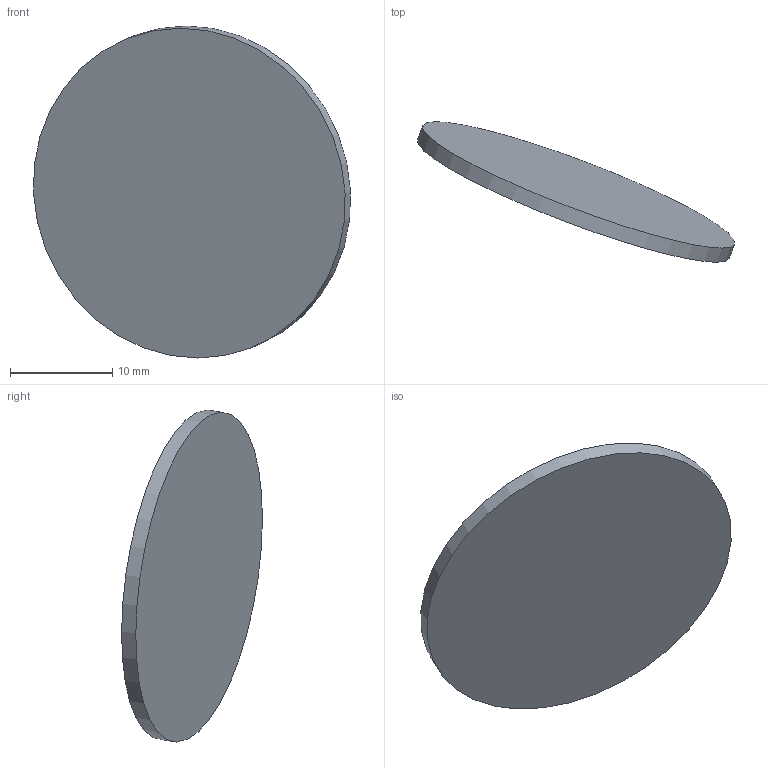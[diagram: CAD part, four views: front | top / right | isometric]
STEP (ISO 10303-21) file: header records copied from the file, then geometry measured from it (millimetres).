
FILE_DESCRIPTION(('Open CASCADE Model'),'2;1');
FILE_NAME('Open CASCADE Shape Model','2026-10-18T22:58:17',('Author'),( 'Open CASCADE'),'Open CASCADE STEP processor 7.9','Open CASCADE 7.9' ,'Unknown');
FILE_SCHEMA(('AUTOMOTIVE_DESIGN { 1 0 10303 214 1 1 1 1 }'));
Length unit declared in the file: millimetre
Products named in the file (1): Open CASCADE STEP translator 7.9 13
Bounding box: 31.01 x 13.77 x 32.47 mm (x, y, z)
Volume: 1252 mm3; surface area: 1823 mm2
Topology: 1 solids, 1 shells, 3 faces, 3 edges, 2 vertices
Faces by surface type: plane 2, cylinder 1
Full cylindrical faces by diameter (mm): 32.6 x1
Entity records: 108 total; most frequent: DIRECTION 19, CARTESIAN_POINT 15, AXIS2_PLACEMENT_3D 6, ORIENTED_EDGE 6, PCURVE 6, DEFINITIONAL_REPRESENTATION 6, LINE 5, VECTOR 5
